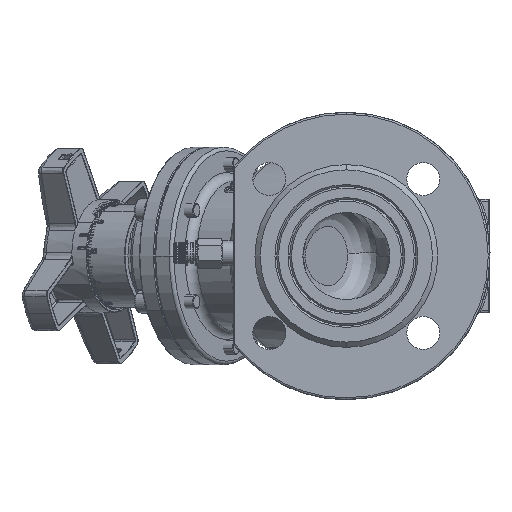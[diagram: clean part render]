
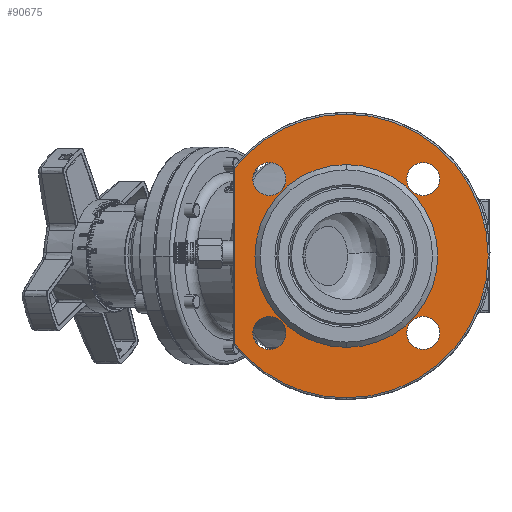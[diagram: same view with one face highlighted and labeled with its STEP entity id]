
A CAD part, left-side view. The second image highlights one B-rep face of the part: STEP entity #90675.
In plain terms, the highlighted planar face has unit normal (-1, 0, 0).
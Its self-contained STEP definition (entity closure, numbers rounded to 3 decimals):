
#2844 = CIRCLE ( 'NONE', #139948, 9.5 ) ;
#3363 = VERTEX_POINT ( 'NONE', #181507 ) ;
#4379 = EDGE_CURVE ( 'NONE', #26155, #84129, #83010, .T. ) ;
#5403 = FACE_BOUND ( 'NONE', #157852, .T. ) ;
#5438 = VERTEX_POINT ( 'NONE', #103976 ) ;
#6543 = CARTESIAN_POINT ( 'NONE',  ( -112., 0., 0. ) ) ;
#7260 = CARTESIAN_POINT ( 'NONE',  ( -112., 0., 81.5 ) ) ;
#10272 = EDGE_CURVE ( 'NONE', #173411, #62653, #37965, .T. ) ;
#11877 = ORIENTED_EDGE ( 'NONE', *, *, #134321, .T. ) ;
#16393 = EDGE_LOOP ( 'NONE', ( #115239, #160906 ) ) ;
#16533 = CARTESIAN_POINT ( 'NONE',  ( -112., 44.194, 44.194 ) ) ;
#16753 = EDGE_LOOP ( 'NONE', ( #38555, #102720 ) ) ;
#17569 = VERTEX_POINT ( 'NONE', #49161 ) ;
#19465 = DIRECTION ( 'NONE',  ( -1., 0., 0. ) ) ;
#20250 = DIRECTION ( 'NONE',  ( -1., 0., 0. ) ) ;
#21203 = PLANE ( 'NONE',  #118686 ) ;
#22294 = EDGE_CURVE ( 'NONE', #17569, #5438, #98783, .T. ) ;
#24350 = AXIS2_PLACEMENT_3D ( 'NONE', #152901, #163239, #122155 ) ;
#24831 = EDGE_CURVE ( 'NONE', #120273, #66685, #50992, .T. ) ;
#25037 = DIRECTION ( 'NONE',  ( -1., 0., 0. ) ) ;
#26155 = VERTEX_POINT ( 'NONE', #172968 ) ;
#26490 = EDGE_LOOP ( 'NONE', ( #108042, #80937 ) ) ;
#29001 = EDGE_CURVE ( 'NONE', #66685, #120273, #126841, .T. ) ;
#30206 = DIRECTION ( 'NONE',  ( -1., 0., 0. ) ) ;
#31525 = DIRECTION ( 'NONE',  ( 0., 0., -1. ) ) ;
#32210 = AXIS2_PLACEMENT_3D ( 'NONE', #16533, #147983, #119079 ) ;
#33360 = CARTESIAN_POINT ( 'NONE',  ( -112., 44.194, -44.194 ) ) ;
#34295 = FACE_BOUND ( 'NONE', #75247, .T. ) ;
#34878 = AXIS2_PLACEMENT_3D ( 'NONE', #83861, #126767, #180933 ) ;
#35637 = VERTEX_POINT ( 'NONE', #152515 ) ;
#37938 = FACE_BOUND ( 'NONE', #16753, .T. ) ;
#37965 = CIRCLE ( 'NONE', #142218, 9.5 ) ;
#38555 = ORIENTED_EDGE ( 'NONE', *, *, #75038, .F. ) ;
#39062 = EDGE_CURVE ( 'NONE', #5438, #17569, #2844, .T. ) ;
#42617 = CARTESIAN_POINT ( 'NONE',  ( -112., -44.194, -44.194 ) ) ;
#42976 = ORIENTED_EDGE ( 'NONE', *, *, #10272, .F. ) ;
#46741 = CIRCLE ( 'NONE', #34878, 52.5 ) ;
#49005 = CARTESIAN_POINT ( 'NONE',  ( -112., 0., -52.5 ) ) ;
#49161 = CARTESIAN_POINT ( 'NONE',  ( -112., 44.194, -34.694 ) ) ;
#49211 = FACE_OUTER_BOUND ( 'NONE', #144738, .T. ) ;
#49470 = DIRECTION ( 'NONE',  ( 0., 0., -1. ) ) ;
#50992 = CIRCLE ( 'NONE', #56958, 9.5 ) ;
#56958 = AXIS2_PLACEMENT_3D ( 'NONE', #85269, #30206, #87099 ) ;
#60830 = VERTEX_POINT ( 'NONE', #49005 ) ;
#61304 = DIRECTION ( 'NONE',  ( 0., 0., -1. ) ) ;
#61617 = CARTESIAN_POINT ( 'NONE',  ( -112., 0., 0. ) ) ;
#62653 = VERTEX_POINT ( 'NONE', #65028 ) ;
#65028 = CARTESIAN_POINT ( 'NONE',  ( -112., -44.194, -34.694 ) ) ;
#66685 = VERTEX_POINT ( 'NONE', #141957 ) ;
#68764 = DIRECTION ( 'NONE',  ( 0., 0., -1. ) ) ;
#74075 = DIRECTION ( 'NONE',  ( -1., 0., 0. ) ) ;
#75038 = EDGE_CURVE ( 'NONE', #60830, #128419, #106268, .T. ) ;
#75126 = CARTESIAN_POINT ( 'NONE',  ( -112., 0., 52.5 ) ) ;
#75186 = ORIENTED_EDGE ( 'NONE', *, *, #132355, .T. ) ;
#75247 = EDGE_LOOP ( 'NONE', ( #96983, #141517 ) ) ;
#75911 = CARTESIAN_POINT ( 'NONE',  ( -112., -44.194, 44.194 ) ) ;
#78487 = CARTESIAN_POINT ( 'NONE',  ( -112., 0., -81.5 ) ) ;
#80937 = ORIENTED_EDGE ( 'NONE', *, *, #29001, .F. ) ;
#80961 = EDGE_CURVE ( 'NONE', #84129, #26155, #130496, .T. ) ;
#83010 = CIRCLE ( 'NONE', #142506, 9.5 ) ;
#83861 = CARTESIAN_POINT ( 'NONE',  ( -112., 0., 0. ) ) ;
#84129 = VERTEX_POINT ( 'NONE', #181749 ) ;
#84656 = CARTESIAN_POINT ( 'NONE',  ( -112., 0., 0. ) ) ;
#85269 = CARTESIAN_POINT ( 'NONE',  ( -112., -44.194, 44.194 ) ) ;
#87099 = DIRECTION ( 'NONE',  ( 0., 0., -1. ) ) ;
#88261 = CIRCLE ( 'NONE', #150837, 81.5 ) ;
#89228 = DIRECTION ( 'NONE',  ( 0., 0., -1. ) ) ;
#90675 = ADVANCED_FACE ( 'NONE', ( #121917, #106093, #5403, #34295, #49211, #37938 ), #21203, .F. ) ;
#91562 = AXIS2_PLACEMENT_3D ( 'NONE', #164903, #19465, #122908 ) ;
#92216 = VERTEX_POINT ( 'NONE', #78487 ) ;
#94152 = DIRECTION ( 'NONE',  ( -1., 0., 0. ) ) ;
#96983 = ORIENTED_EDGE ( 'NONE', *, *, #22294, .F. ) ;
#97362 = ORIENTED_EDGE ( 'NONE', *, *, #165792, .T. ) ;
#97657 = VERTEX_POINT ( 'NONE', #7260 ) ;
#98783 = CIRCLE ( 'NONE', #24350, 9.5 ) ;
#99517 = DIRECTION ( 'NONE',  ( -1., 0., 0. ) ) ;
#102720 = ORIENTED_EDGE ( 'NONE', *, *, #133068, .F. ) ;
#103420 = DIRECTION ( 'NONE',  ( 0., 0., -1. ) ) ;
#103436 = CIRCLE ( 'NONE', #91562, 81.5 ) ;
#103976 = CARTESIAN_POINT ( 'NONE',  ( -112., 44.194, -53.694 ) ) ;
#106093 = FACE_BOUND ( 'NONE', #26490, .T. ) ;
#106268 = CIRCLE ( 'NONE', #174850, 52.5 ) ;
#108042 = ORIENTED_EDGE ( 'NONE', *, *, #24831, .F. ) ;
#108891 = EDGE_CURVE ( 'NONE', #62653, #173411, #171227, .T. ) ;
#115239 = ORIENTED_EDGE ( 'NONE', *, *, #80961, .F. ) ;
#118686 = AXIS2_PLACEMENT_3D ( 'NONE', #163916, #178824, #134977 ) ;
#119079 = DIRECTION ( 'NONE',  ( 0., 0., -1. ) ) ;
#120273 = VERTEX_POINT ( 'NONE', #175332 ) ;
#121248 = DIRECTION ( 'NONE',  ( -1., 0., 0. ) ) ;
#121917 = FACE_BOUND ( 'NONE', #16393, .T. ) ;
#122155 = DIRECTION ( 'NONE',  ( 0., 0., -1. ) ) ;
#122908 = DIRECTION ( 'NONE',  ( 0., 0., -1. ) ) ;
#126767 = DIRECTION ( 'NONE',  ( -1., 0., 0. ) ) ;
#126841 = CIRCLE ( 'NONE', #150698, 9.5 ) ;
#128419 = VERTEX_POINT ( 'NONE', #75126 ) ;
#129363 = DIRECTION ( 'NONE',  ( -1., 0., 0. ) ) ;
#130496 = CIRCLE ( 'NONE', #32210, 9.5 ) ;
#131218 = CARTESIAN_POINT ( 'NONE',  ( -112., -44.194, -44.194 ) ) ;
#131411 = CARTESIAN_POINT ( 'NONE',  ( -112., 64., 0. ) ) ;
#132355 = EDGE_CURVE ( 'NONE', #3363, #92216, #88261, .T. ) ;
#132798 = DIRECTION ( 'NONE',  ( 0., 0., -1. ) ) ;
#133068 = EDGE_CURVE ( 'NONE', #128419, #60830, #46741, .T. ) ;
#134321 = EDGE_CURVE ( 'NONE', #92216, #97657, #103436, .T. ) ;
#134977 = DIRECTION ( 'NONE',  ( 0., 0., -1. ) ) ;
#139948 = AXIS2_PLACEMENT_3D ( 'NONE', #33360, #162086, #31525 ) ;
#141154 = CARTESIAN_POINT ( 'NONE',  ( -112., -44.194, -53.694 ) ) ;
#141517 = ORIENTED_EDGE ( 'NONE', *, *, #39062, .F. ) ;
#141957 = CARTESIAN_POINT ( 'NONE',  ( -112., -44.194, 34.694 ) ) ;
#142218 = AXIS2_PLACEMENT_3D ( 'NONE', #131218, #129363, #89228 ) ;
#142506 = AXIS2_PLACEMENT_3D ( 'NONE', #148029, #20250, #61304 ) ;
#144738 = EDGE_LOOP ( 'NONE', ( #154799, #75186, #11877, #97362 ) ) ;
#147983 = DIRECTION ( 'NONE',  ( -1., 0., 0. ) ) ;
#148029 = CARTESIAN_POINT ( 'NONE',  ( -112., 44.194, 44.194 ) ) ;
#150698 = AXIS2_PLACEMENT_3D ( 'NONE', #75911, #74075, #132798 ) ;
#150837 = AXIS2_PLACEMENT_3D ( 'NONE', #6543, #94152, #177228 ) ;
#152515 = CARTESIAN_POINT ( 'NONE',  ( -112., 64., 50.46 ) ) ;
#152901 = CARTESIAN_POINT ( 'NONE',  ( -112., 44.194, -44.194 ) ) ;
#154799 = ORIENTED_EDGE ( 'NONE', *, *, #169645, .T. ) ;
#157435 = AXIS2_PLACEMENT_3D ( 'NONE', #61617, #121248, #49470 ) ;
#157852 = EDGE_LOOP ( 'NONE', ( #176088, #42976 ) ) ;
#160906 = ORIENTED_EDGE ( 'NONE', *, *, #4379, .F. ) ;
#161250 = LINE ( 'NONE', #131411, #172492 ) ;
#162086 = DIRECTION ( 'NONE',  ( -1., 0., 0. ) ) ;
#162339 = AXIS2_PLACEMENT_3D ( 'NONE', #42617, #99517, #68764 ) ;
#163239 = DIRECTION ( 'NONE',  ( -1., 0., 0. ) ) ;
#163916 = CARTESIAN_POINT ( 'NONE',  ( -112., 82.5, 0. ) ) ;
#164903 = CARTESIAN_POINT ( 'NONE',  ( -112., 0., 0. ) ) ;
#165792 = EDGE_CURVE ( 'NONE', #97657, #35637, #166504, .T. ) ;
#166504 = CIRCLE ( 'NONE', #157435, 81.5 ) ;
#167716 = DIRECTION ( 'NONE',  ( 0., 0., 1. ) ) ;
#169645 = EDGE_CURVE ( 'NONE', #35637, #3363, #161250, .T. ) ;
#171227 = CIRCLE ( 'NONE', #162339, 9.5 ) ;
#172492 = VECTOR ( 'NONE', #103420, 1000. ) ;
#172968 = CARTESIAN_POINT ( 'NONE',  ( -112., 44.194, 34.694 ) ) ;
#173411 = VERTEX_POINT ( 'NONE', #141154 ) ;
#174850 = AXIS2_PLACEMENT_3D ( 'NONE', #84656, #25037, #167716 ) ;
#175332 = CARTESIAN_POINT ( 'NONE',  ( -112., -44.194, 53.694 ) ) ;
#176088 = ORIENTED_EDGE ( 'NONE', *, *, #108891, .F. ) ;
#177228 = DIRECTION ( 'NONE',  ( 0., 0., -1. ) ) ;
#178824 = DIRECTION ( 'NONE',  ( 1., 0., 0. ) ) ;
#180933 = DIRECTION ( 'NONE',  ( 0., 0., 1. ) ) ;
#181507 = CARTESIAN_POINT ( 'NONE',  ( -112., 64., -50.46 ) ) ;
#181749 = CARTESIAN_POINT ( 'NONE',  ( -112., 44.194, 53.694 ) ) ;
